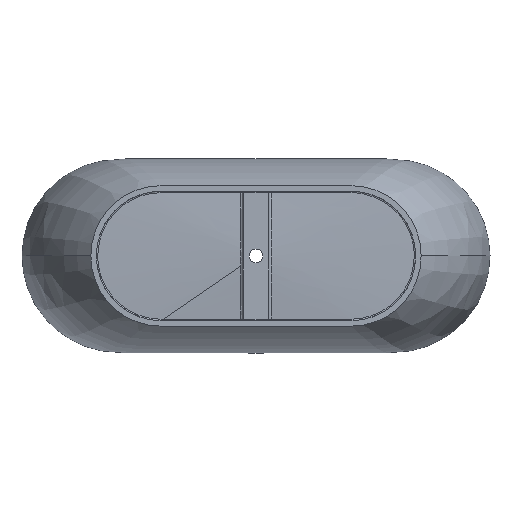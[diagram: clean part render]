
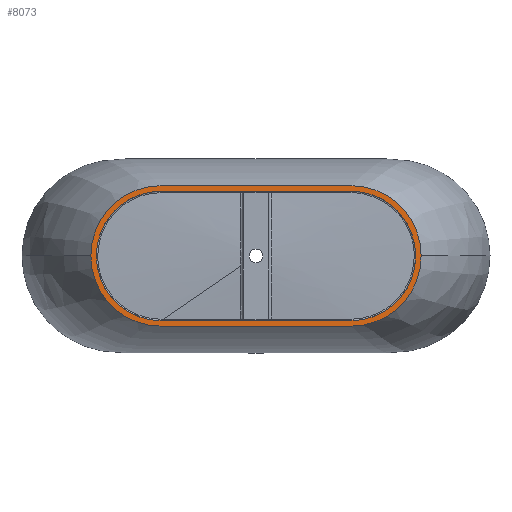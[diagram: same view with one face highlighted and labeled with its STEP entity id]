
A CAD part, front view. The second image highlights one B-rep face of the part: STEP entity #8073.
In plain terms, the highlighted planar face has unit normal (0, -1, 0).
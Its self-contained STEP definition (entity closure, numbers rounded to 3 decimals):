
#109 = DIRECTION ( 'NONE',  ( 0., 0., -1. ) ) ;
#170 = AXIS2_PLACEMENT_3D ( 'NONE', #7359, #2594, #8138 ) ;
#206 = DIRECTION ( 'NONE',  ( -1., 0., 0. ) ) ;
#300 = DIRECTION ( 'NONE',  ( 0., -1., 0. ) ) ;
#560 = ORIENTED_EDGE ( 'NONE', *, *, #8863, .F. ) ;
#1314 = CARTESIAN_POINT ( 'NONE',  ( -350.169, -553.275, -0.003 ) ) ;
#1469 = PLANE ( 'NONE',  #5226 ) ;
#1548 = EDGE_CURVE ( 'NONE', #8273, #3434, #4468, .T. ) ;
#1555 = VERTEX_POINT ( 'NONE', #8482 ) ;
#1794 = CARTESIAN_POINT ( 'NONE',  ( -350.169, -553.275, 258.822 ) ) ;
#1881 = ORIENTED_EDGE ( 'NONE', *, *, #1548, .T. ) ;
#2060 = VERTEX_POINT ( 'NONE', #6327 ) ;
#2092 = VECTOR ( 'NONE', #206, 1000. ) ;
#2266 = CARTESIAN_POINT ( 'NONE',  ( 350.181, -553.275, -238.528 ) ) ;
#2285 = VECTOR ( 'NONE', #9211, 1000. ) ;
#2419 = DIRECTION ( 'NONE',  ( 0., -1., 0. ) ) ;
#2480 = CIRCLE ( 'NONE', #170, 238.525 ) ;
#2584 = VERTEX_POINT ( 'NONE', #7962 ) ;
#2594 = DIRECTION ( 'NONE',  ( 0., -1., 0. ) ) ;
#2605 = CIRCLE ( 'NONE', #3215, 238.525 ) ;
#3100 = DIRECTION ( 'NONE',  ( 0., -1., 0. ) ) ;
#3130 = CARTESIAN_POINT ( 'NONE',  ( 350.181, -553.275, 258.822 ) ) ;
#3215 = AXIS2_PLACEMENT_3D ( 'NONE', #9624, #4938, #109 ) ;
#3365 = VERTEX_POINT ( 'NONE', #6185 ) ;
#3385 = EDGE_CURVE ( 'NONE', #1555, #8273, #9594, .T. ) ;
#3434 = VERTEX_POINT ( 'NONE', #1794 ) ;
#3584 = ORIENTED_EDGE ( 'NONE', *, *, #8302, .F. ) ;
#4168 = CARTESIAN_POINT ( 'NONE',  ( -350.169, -553.275, -258.828 ) ) ;
#4263 = LINE ( 'NONE', #9727, #2092 ) ;
#4372 = ORIENTED_EDGE ( 'NONE', *, *, #9910, .F. ) ;
#4468 = LINE ( 'NONE', #6189, #2285 ) ;
#4862 = VERTEX_POINT ( 'NONE', #2266 ) ;
#4938 = DIRECTION ( 'NONE',  ( 0., -1., 0. ) ) ;
#5123 = CARTESIAN_POINT ( 'NONE',  ( 350.181, -553.275, -0.003 ) ) ;
#5226 = AXIS2_PLACEMENT_3D ( 'NONE', #1314, #3100, #8629 ) ;
#5368 = LINE ( 'NONE', #9379, #7465 ) ;
#5472 = DIRECTION ( 'NONE',  ( 1., 0., 0. ) ) ;
#5872 = FACE_OUTER_BOUND ( 'NONE', #6582, .T. ) ;
#5907 = DIRECTION ( 'NONE',  ( 0., 0., -1. ) ) ;
#6077 = VERTEX_POINT ( 'NONE', #9392 ) ;
#6185 = CARTESIAN_POINT ( 'NONE',  ( 350.181, -553.275, 238.522 ) ) ;
#6189 = CARTESIAN_POINT ( 'NONE',  ( 350.181, -553.275, 258.822 ) ) ;
#6327 = CARTESIAN_POINT ( 'NONE',  ( -350.169, -553.275, -238.528 ) ) ;
#6355 = VECTOR ( 'NONE', #8859, 1000. ) ;
#6582 = EDGE_LOOP ( 'NONE', ( #9622, #9006, #9630, #1881 ) ) ;
#6605 = LINE ( 'NONE', #4168, #6355 ) ;
#7203 = CARTESIAN_POINT ( 'NONE',  ( -350.169, -553.275, -0.003 ) ) ;
#7359 = CARTESIAN_POINT ( 'NONE',  ( 350.181, -553.275, -0.003 ) ) ;
#7465 = VECTOR ( 'NONE', #5472, 1000. ) ;
#7585 = CIRCLE ( 'NONE', #10296, 258.825 ) ;
#7962 = CARTESIAN_POINT ( 'NONE',  ( -350.169, -553.275, 238.522 ) ) ;
#7978 = DIRECTION ( 'NONE',  ( 0., 0., -1. ) ) ;
#8073 = ADVANCED_FACE ( 'NONE', ( #5872, #8200 ), #1469, .T. ) ;
#8138 = DIRECTION ( 'NONE',  ( 0., 0., -1. ) ) ;
#8200 = FACE_BOUND ( 'NONE', #9988, .T. ) ;
#8273 = VERTEX_POINT ( 'NONE', #3130 ) ;
#8302 = EDGE_CURVE ( 'NONE', #2060, #4862, #5368, .T. ) ;
#8482 = CARTESIAN_POINT ( 'NONE',  ( 350.181, -553.275, -258.828 ) ) ;
#8629 = DIRECTION ( 'NONE',  ( 0., 0., -1. ) ) ;
#8646 = ORIENTED_EDGE ( 'NONE', *, *, #10214, .F. ) ;
#8803 = AXIS2_PLACEMENT_3D ( 'NONE', #5123, #300, #5907 ) ;
#8859 = DIRECTION ( 'NONE',  ( 1., 0., 0. ) ) ;
#8863 = EDGE_CURVE ( 'NONE', #4862, #3365, #2480, .T. ) ;
#9006 = ORIENTED_EDGE ( 'NONE', *, *, #10125, .T. ) ;
#9211 = DIRECTION ( 'NONE',  ( -1., 0., 0. ) ) ;
#9379 = CARTESIAN_POINT ( 'NONE',  ( -350.169, -553.275, -238.528 ) ) ;
#9392 = CARTESIAN_POINT ( 'NONE',  ( -350.169, -553.275, -258.828 ) ) ;
#9594 = CIRCLE ( 'NONE', #8803, 258.825 ) ;
#9622 = ORIENTED_EDGE ( 'NONE', *, *, #9712, .T. ) ;
#9624 = CARTESIAN_POINT ( 'NONE',  ( -350.169, -553.275, -0.003 ) ) ;
#9630 = ORIENTED_EDGE ( 'NONE', *, *, #3385, .T. ) ;
#9712 = EDGE_CURVE ( 'NONE', #3434, #6077, #7585, .T. ) ;
#9727 = CARTESIAN_POINT ( 'NONE',  ( 350.181, -553.275, 238.522 ) ) ;
#9910 = EDGE_CURVE ( 'NONE', #2584, #2060, #2605, .T. ) ;
#9988 = EDGE_LOOP ( 'NONE', ( #8646, #560, #3584, #4372 ) ) ;
#10125 = EDGE_CURVE ( 'NONE', #6077, #1555, #6605, .T. ) ;
#10214 = EDGE_CURVE ( 'NONE', #3365, #2584, #4263, .T. ) ;
#10296 = AXIS2_PLACEMENT_3D ( 'NONE', #7203, #2419, #7978 ) ;
